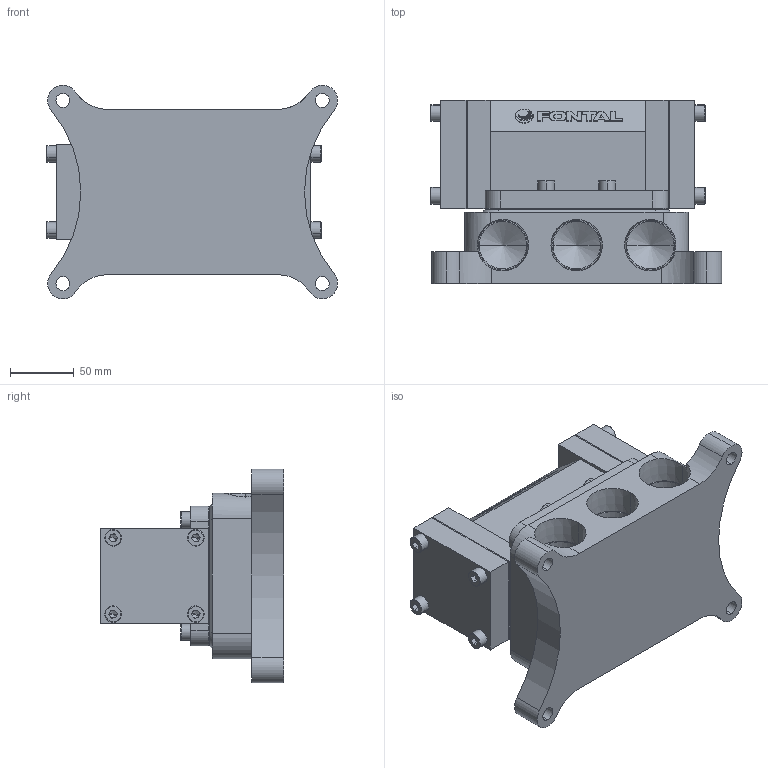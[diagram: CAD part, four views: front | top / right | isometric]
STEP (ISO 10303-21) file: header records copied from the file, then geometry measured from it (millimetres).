
FILE_DESCRIPTION (( 'STEP AP203' ), '1' );
FILE_NAME ('VMS2425-10.STEP', '2016-01-13T18:34:18', ( '' ), ( '' ), 'SwSTEP 2.0', 'SolidWorks 2014', '' );
FILE_SCHEMA (( 'CONFIG_CONTROL_DESIGN' ));
Length unit declared in the file: millimetre
Products named in the file (9): PMS2425-3; PM25底座-1-10; VMS2425-10; PMS2425-4; ISO 4762 M8; PMS2425-1; PM25-MARK-24; PMS2425-2; VMS2425-1
Assembly tree (20 placements, depth 2):
  VMS2425-10
    PMS2425-1
    PMS2425-2  x2
    ISO 4762 M8  x12
    PMS2425-4
    PMS2425-3
    PM25-MARK-24
    VMS2425-1
    PM25底座-1-10
Bounding box: 229 x 144 x 167.99 mm (x, y, z)
Volume: 2445006.6 mm3; surface area: 299672.5 mm2
Topology: 26 solids, 26 shells, 589 faces, 1376 edges, 839 vertices
Faces by surface type: plane 324, cylinder 137, cone 72, torus 48, bspline 8
Entity records: 10057 total; most frequent: CARTESIAN_POINT 1705, DIRECTION 1504, ORIENTED_EDGE 1428, EDGE_CURVE 714, AXIS2_PLACEMENT_3D 523, VERTEX_POINT 468, VECTOR 458, LINE 458
